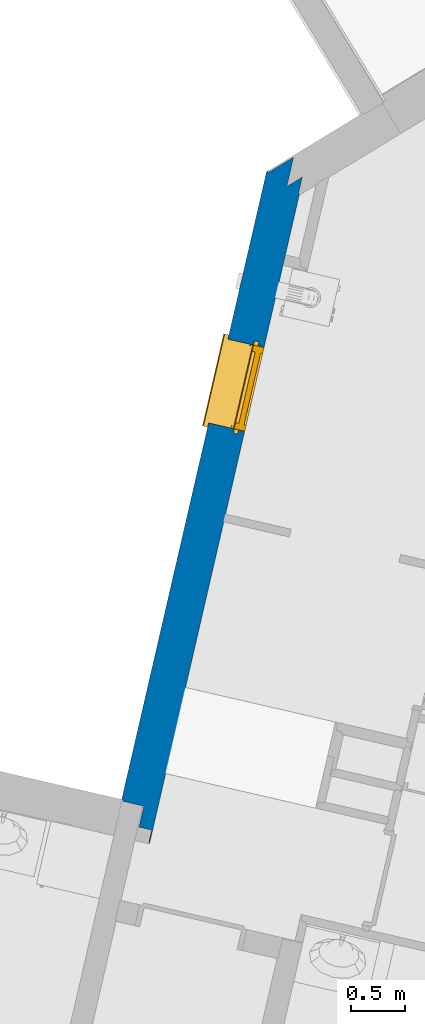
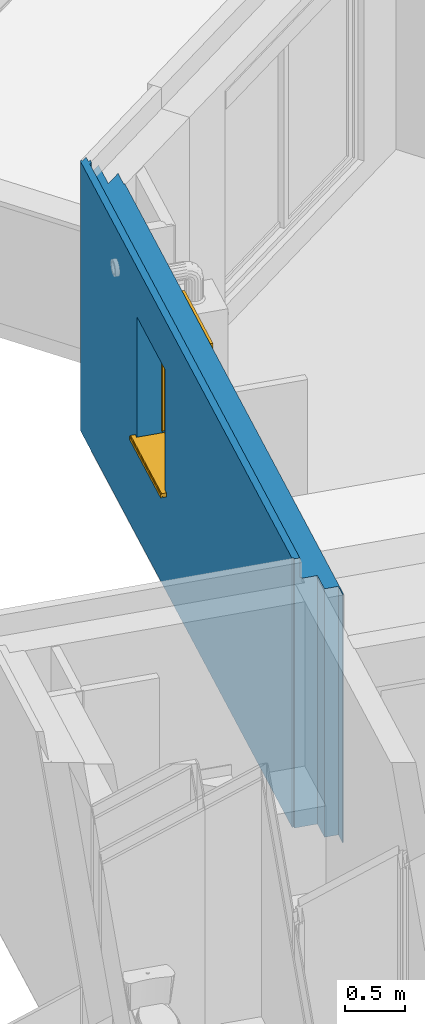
# One storey, part 30 of 91: 1 wall, 1 window, 1 opening.
"""IFC2X3 building model written with IfcOpenShell, lengths in metres."""

from ifc_helpers import new_model, entity, si_unit, converted_unit, derived_unit, money_unit, direction, frame, origin_with_axes, place, context, subcontext, project, spatial, open_shell, faceted_brep, surface_model, source, transform, mapped, material, material_list, type_object, element, fill, save


model = new_model("IFC2X3")

# Units and contexts
model_context = context("Model", 3, precision=1e-05, world=origin_with_axes(), true_north=direction((0.0, 1.0)))
body_context = subcontext(model_context, "Body", "Model", "MODEL_VIEW")
ifc_project = project(units=[si_unit("LENGTHUNIT", "METRE"), si_unit("AREAUNIT", "SQUARE_METRE"), si_unit("VOLUMEUNIT", "CUBIC_METRE"), converted_unit("PLANEANGLEUNIT", "DEGREE", entity("IfcPlaneAngleMeasure", 0.0174532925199), si_unit("PLANEANGLEUNIT", "RADIAN"), dimensions=[0, 0, 0, 0, 0, 0, 0]), si_unit("SOLIDANGLEUNIT", "STERADIAN"), money_unit("EUR"), converted_unit("TIMEUNIT", "Year", entity("IfcTimeMeasure", 31556926.0), si_unit("TIMEUNIT", "SECOND"), dimensions=[0, 0, 1, 0, 0, 0, 0]), si_unit("MASSUNIT", "GRAM", prefix="KILO"), si_unit("THERMODYNAMICTEMPERATUREUNIT", "DEGREE_CELSIUS"), si_unit("LUMINOUSINTENSITYUNIT", "LUMEN"), si_unit("ENERGYUNIT", "JOULE", prefix="MEGA"), derived_unit("THERMALCONDUCTANCEUNIT", [(si_unit("POWERUNIT", "WATT"), 1), (si_unit("LENGTHUNIT", "METRE"), -1), (si_unit("THERMODYNAMICTEMPERATUREUNIT", "KELVIN"), -1)]), derived_unit("SPECIFICHEATCAPACITYUNIT", [(si_unit("ENERGYUNIT", "JOULE"), 1), (si_unit("MASSUNIT", "GRAM", prefix="KILO"), -1), (si_unit("THERMODYNAMICTEMPERATUREUNIT", "KELVIN"), -1)]), derived_unit("MASSDENSITYUNIT", [(si_unit("MASSUNIT", "GRAM", prefix="KILO"), 1), (si_unit("VOLUMEUNIT", "CUBIC_METRE"), -1)])], contexts=[model_context])

# Site, building, storey
site_placement = place(None, origin_with_axes())
site = spatial("IfcSite", under=ifc_project, at=site_placement, Name="Site", CompositionType="ELEMENT")
building_placement = place(site_placement, origin_with_axes())
building = spatial("IfcBuilding", under=site, at=building_placement, Name="Bâtiment", CompositionType="ELEMENT")
storey_placement = place(building_placement, frame((0.0, 0.0, 5.44), z_axis=(0.0, 0.0, 1.0), x_axis=(1.0, 0.0, 0.0)))
storey = spatial("IfcBuildingStorey", under=building, at=storey_placement, Name="R+2", CompositionType="ELEMENT", Elevation=5.44)

# Wall, opening, window
ifc_material_1 = material(Name="Finition int - Plaque de plâtre")
ifc_material_2 = material(Name="Isolation - Polystyrène extrudé")
ifc_material_3 = material(Name="Bloc ELITHERM")
ifc_material_4 = material(Name="Isolation - Polystyrène expansé")
ifc_material_5 = material(Name="Mortier")
ifc_material_6 = material(Name="Béton cellulaire")
ifc_material_7 = material(Name="Finition ext - Crépis")
ifc_material_list = material_list([ifc_material_1, ifc_material_2, ifc_material_3, ifc_material_4, ifc_material_5, ifc_material_6, ifc_material_7])
wall_type = type_object("IfcWallType", Name="Mur ALKERN + planelle 21 345 x 2720", PredefinedType="USERDEFINED")
wall_placement = place(storey_placement, frame((-6.85053797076, 17.6412974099, 0.0), z_axis=(0.0, 0.0, 1.0), x_axis=(-0.22487619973, -0.974387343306, 0.0)))
wall = element("IfcWall", 1, at=wall_placement, inside=storey, type_object=wall_type, material=ifc_material_list, Name="Mue bloc ALKERN isolé", ObjectType="SOLIDWALL", context=body_context, shape_type="Brep", body=[
    faceted_brep([(0.131456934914, 0.34499998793, 2.51), (6.32564186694, 0.34499998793, 2.51), (6.32564186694, 0.34499998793, 0.0), (0.131456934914, 0.34499998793, 0.0), (4.84260207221, 0.34499998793, 2.5), (4.84260207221, 0.34499998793, 2.2), (5.66460207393, 0.34499998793, 2.2), (5.66460207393, 0.34499998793, 2.5), (2.39770804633, 0.34499998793, 2.22), (2.39770804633, 0.34499998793, 2.4), (1.59770804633, 0.34499998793, 2.4), (1.59770804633, 0.34499998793, 2.22), (1.59770804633, 0.34499998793, 1.02), (2.39770804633, 0.34499998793, 1.02), (0.141210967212, 0.335000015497, 2.51), (6.32564186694, 0.335000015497, 2.51), (6.32564186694, 0.335000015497, 0.0), (0.141210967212, 0.335000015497, 0.0), (4.84260207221, 0.340000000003, 2.5), (4.84260207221, 0.340000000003, 2.2), (5.66460207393, 0.339999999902, 2.2), (5.66460207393, 0.339999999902, 2.5), (2.39770804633, 0.335000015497, 2.22), (2.39770804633, 0.335000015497, 2.4), (2.39770804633, 0.335000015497, 1.02), (1.59770804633, 0.335000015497, 2.4), (1.59770804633, 0.335000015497, 2.22), (1.59770804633, 0.335000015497, 1.02)], [[[0, 1, 2, 3], [4, 5, 6, 7], [8, 9, 10, 11, 12, 13]], [[14, 15, 1, 0]], [[1, 15, 16, 2]], [[3, 2, 16, 17]], [[0, 3, 17, 14]], [[18, 19, 5, 4]], [[19, 20, 6, 5]], [[20, 21, 7, 6]], [[21, 18, 4, 7]], [[22, 23, 9, 8, 13, 24]], [[10, 9, 23, 25]], [[11, 10, 25, 26, 27, 12]], [[12, 27, 24, 13]], [[17, 16, 15, 14], [23, 22, 24, 27, 26, 25]], [[21, 20, 19, 18]]]),
    faceted_brep([(1.59770804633, 0.215000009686, 1.02), (1.59770804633, 0.215000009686, 0.96), (1.59770804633, 0.286, 0.96), (1.59770804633, 0.286, 1.02), (1.59770804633, 0.335000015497, 1.02), (1.59770804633, 0.335000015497, 2.22), (1.59770804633, 0.335000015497, 2.4), (1.59770804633, 0.215, 2.4), (1.59770804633, 0.215, 2.22), (6.2056418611, 0.215000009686, 2.51), (0.0906279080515, 0.215000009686, 2.50999999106), (0.0906279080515, 0.215000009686, 0.0), (6.2056418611, 0.215000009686, 0.0), (2.39770804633, 0.215, 2.4), (2.39770804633, 0.215, 2.22), (2.39770804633, 0.215000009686, 1.02), (2.39770804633, 0.215000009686, 0.96), (2.39770804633, 0.286, 0.96), (2.39770804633, 0.286, 1.02), (2.39770804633, 0.335000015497, 1.02), (6.20564186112, 0.335000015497, 0.0), (-0.0264208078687, 0.335000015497, 0.0), (-0.0264208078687, 0.335000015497, 2.50999999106), (6.20564186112, 0.335000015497, 2.51), (2.39770804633, 0.335000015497, 2.22), (2.39770804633, 0.335000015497, 2.4)], [[[0, 1, 2, 3, 4, 5, 6, 7, 8]], [[9, 10, 11, 12], [1, 0, 8, 7, 13, 14, 15, 16]], [[1, 16, 17, 2]], [[18, 3, 2, 17]], [[3, 18, 19, 4]], [[20, 21, 22, 23], [5, 4, 19, 24, 25, 6]], [[25, 13, 7, 6]], [[23, 22, 10, 9]], [[11, 10, 22, 21]], [[12, 11, 21, 20]], [[12, 20, 23, 9]], [[18, 17, 16, 15, 14, 13, 25, 24, 19]]]),
    faceted_brep([(1.59770804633, 0.015, 1.02), (1.59770804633, 0.015, 0.96), (1.59770804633, 0.214999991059, 0.96), (1.59770804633, 0.214999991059, 1.02), (1.59770804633, 0.214999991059, 2.22), (1.59770804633, 0.015, 2.22), (6.00564185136, 0.015, 0.0), (6.00564185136, 0.015, 2.50999999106), (0.00632286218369, 0.015, 2.50999999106), (0.00632286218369, 0.015, 0.0), (2.39770804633, 0.015, 2.22), (2.39770804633, 0.015, 1.02), (2.39770804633, 0.015, 0.96), (2.39770804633, 0.214999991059, 0.96), (6.00564185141, 0.214999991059, 2.50999999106), (6.00564185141, 0.214999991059, 0.0), (-0.188758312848, 0.214999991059, 0.0), (-0.188758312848, 0.214999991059, 2.50999999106), (2.39770804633, 0.214999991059, 1.02), (2.39770804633, 0.214999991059, 2.22), (6.00564185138, 0.0829999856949, 2.50999999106), (-0.0600047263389, 0.0829999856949, 2.50999999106)], [[[0, 1, 2, 3, 4, 5]], [[6, 7, 8, 9], [1, 0, 5, 10, 11, 12]], [[13, 2, 1, 12]], [[14, 15, 16, 17], [13, 18, 19, 4, 3, 2]], [[19, 10, 5, 4]], [[6, 15, 14, 20, 7]], [[7, 20, 21, 8]], [[8, 21, 17, 16, 9]], [[15, 6, 9, 16]], [[18, 13, 12, 11, 10, 19]], [[20, 14, 17, 21]]]),
    faceted_brep([(0.0616375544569, 0.0629999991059, 2.72), (0.042129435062, 0.083000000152, 2.72), (0.00704797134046, 0.083000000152, 2.72), (0.0265560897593, 0.0630000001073, 2.72), (0.0421294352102, 0.083, 2.51999999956), (0.0616375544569, 0.0629999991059, 2.51999999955), (0.00704797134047, 0.083000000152, 2.51999999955), (0.0265560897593, 0.0630000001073, 2.51999999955)], [[[0, 1, 2, 3]], [[4, 1, 0, 5]], [[1, 4, 6, 2]], [[7, 3, 2, 6]], [[5, 0, 3, 7]], [[4, 5, 7, 6]]]),
    faceted_brep([(-0.0600047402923, 0.083, 2.50999999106), (-0.0600047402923, 0.083, 2.51999999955), (6.00564185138, 0.083, 2.52), (6.00564185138, 0.083, 2.51), (0.00632286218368, 0.015, 2.51999999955), (0.00632286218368, 0.015, 2.50999999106), (6.00564185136, 0.015, 2.52), (6.00564185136, 0.015, 2.51)], [[[0, 1, 2, 3]], [[4, 1, 0, 5]], [[1, 4, 6, 2]], [[3, 2, 6, 7]], [[5, 0, 3, 7]], [[4, 5, 7, 6]]]),
    faceted_brep([(-0.0404966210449, 0.0629999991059, 2.51999999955), (-0.0404966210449, 0.0629999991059, 2.72), (6.00564185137, 0.0629999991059, 2.72), (6.00564185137, 0.0629999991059, 2.51999999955), (0.00632286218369, 0.015, 2.72), (0.00632286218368, 0.015, 2.51999999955), (6.00564185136, 0.015, 2.72), (6.00564185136, 0.015, 2.51999999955)], [[[0, 1, 2, 3]], [[4, 1, 0, 5]], [[1, 4, 6, 2]], [[3, 2, 6, 7]], [[5, 0, 3, 7]], [[4, 5, 7, 6]]]),
    faceted_brep([(1.59770804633, 0.0, 1.02), (1.59770804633, 0.0149999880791, 1.02), (1.59770804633, 0.0149999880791, 2.22), (1.59770804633, 0.0, 2.22), (1.59770804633, 0.0149999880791, 0.96), (1.59770804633, 0.0, 0.96), (5.99064185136, 0.0149999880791, 0.0), (-0.014631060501, 0.0149999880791, 0.0), (-0.014631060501, 0.0149999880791, 2.72), (5.99064185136, 0.0149999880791, 2.72), (2.39770804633, 0.0149999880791, 0.96), (2.39770804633, 0.0149999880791, 1.02), (2.39770804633, 0.0149999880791, 2.22), (2.39770804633, 0.0, 2.22), (1.66527378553e-08, 0.0, 2.72), (1.66527378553e-08, 0.0, 0.0), (5.99064185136, 0.0, 0.0), (5.99064185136, 0.0, 2.72), (2.39770804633, 0.0, 1.02), (2.39770804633, 0.0, 0.96)], [[[0, 1, 2, 3]], [[4, 1, 0, 5]], [[6, 7, 8, 9], [10, 11, 12, 2, 1, 4]], [[12, 13, 3, 2]], [[14, 15, 16, 17], [5, 0, 3, 13, 18, 19]], [[10, 4, 5, 19]], [[16, 15, 7, 6]], [[14, 8, 7, 15]], [[9, 8, 14, 17]], [[17, 16, 6, 9]], [[18, 11, 10, 19]], [[11, 18, 13, 12]]]),
])
opening_placement = place(wall_placement, frame((1.99770804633, 0.0, 1.02), z_axis=(0.0, 0.0, 1.0), x_axis=(1.0, 0.0, 0.0)))
opening = element("IfcOpeningElement", 2, at=opening_placement, cuts=wall, Name="MEN 73", context=body_context, shape_type="Brep", body=[
    faceted_brep([(-0.4, 0.83499998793, 0.0), (0.4, 0.83499998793, 0.0), (0.4, 0.245, 0.0), (-0.4, 0.245, 0.0), (-0.4, 0.83499998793, 1.2), (0.4, 0.83499998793, 1.2), (0.4, 0.245, 1.2), (-0.4, 0.245, 1.2)], [[[0, 1, 2, 3]], [[0, 4, 5, 1]], [[1, 5, 6, 2]], [[3, 2, 6, 7]], [[4, 0, 3, 7]], [[5, 4, 7, 6]]]),
    faceted_brep([(-0.4, -0.34499998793, 0.0), (-0.4, -0.34499998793, 1.2), (-0.4, 0.245, 1.2), (-0.4, 0.245, 0.0), (0.4, -0.34499998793, 0.0), (0.4, -0.34499998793, 1.2), (0.4, 0.245, 1.2), (0.4, 0.245, 0.0)], [[[0, 1, 2, 3]], [[0, 4, 5, 1]], [[1, 5, 6, 2]], [[3, 2, 6, 7]], [[4, 0, 3, 7]], [[5, 4, 7, 6]]]),
    faceted_brep([(-0.4, -0.34499998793, 0.0), (-0.4, -0.34499998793, 1.2), (-0.4, 0.245, 1.2), (-0.4, 0.245, 0.0), (0.4, -0.34499998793, 0.0), (0.4, -0.34499998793, 1.2), (0.4, 0.245, 1.2), (0.4, 0.245, 0.0)], [[[0, 1, 2, 3]], [[0, 4, 5, 1]], [[1, 5, 6, 2]], [[3, 2, 6, 7]], [[4, 0, 3, 7]], [[5, 4, 7, 6]]]),
    faceted_brep([(-0.4, 0.80499998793, 1.2), (0.4, 0.80499998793, 1.2), (0.4, 0.215, 1.2), (-0.4, 0.215, 1.2), (-0.4, 0.80499998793, 1.38), (0.4, 0.80499998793, 1.38), (0.4, 0.215, 1.38), (-0.4, 0.215, 1.38)], [[[0, 1, 2, 3]], [[0, 4, 5, 1]], [[1, 5, 6, 2]], [[3, 2, 6, 7]], [[4, 0, 3, 7]], [[5, 4, 7, 6]]]),
    faceted_brep([(-0.4, -0.30399998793, 0.0), (0.4, -0.30399998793, 0.0), (0.4, 0.286, 0.0), (-0.4, 0.286, 0.0), (-0.4, -0.30399998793, -0.06), (0.4, -0.30399998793, -0.06), (0.4, 0.286, -0.06), (-0.4, 0.286, -0.06)], [[[0, 1, 2, 3]], [[0, 4, 5, 1]], [[1, 5, 6, 2]], [[3, 2, 6, 7]], [[4, 0, 3, 7]], [[5, 4, 7, 6]]]),
])
window_style = type_object("IfcWindowStyle", Name="Baie générique 2017 v2", ConstructionType="NOTDEFINED", OperationType="NOTDEFINED", ParameterTakesPrecedence=False, Sizeable=False)
shared_shape = source(origin_with_axes(), body_context, "Body", "SurfaceModel", [
    faceted_brep([(-0.4, 0.1, 0.0), (0.4, 0.1, 0.0), (0.4, 0.0, 0.0), (-0.4, 0.0, 0.0), (-0.4, 0.1, 1.2), (0.4, 0.1, 1.2), (-0.34, 0.1, 0.05), (0.34, 0.1, 0.05), (0.34, 0.1, 1.15), (-0.34, 0.1, 1.15), (0.4, 0.0, 1.2), (-0.4, 0.0, 1.2), (-0.34, 0.0, 0.05), (-0.34, 0.0, 1.15), (0.34, 0.0, 1.15), (0.34, 0.0, 0.05)], [[[0, 1, 2, 3]], [[0, 4, 5, 1], [6, 7, 8, 9]], [[1, 5, 10, 2]], [[3, 2, 10, 11], [12, 13, 14, 15]], [[4, 0, 3, 11]], [[5, 4, 11, 10]], [[7, 6, 12, 15]], [[8, 7, 15, 14]], [[9, 8, 14, 13]], [[6, 9, 13, 12]]]),
    faceted_brep([(0.34, 0.08, 1.15), (0.34, 0.08, 0.05), (-0.34, 0.08, 0.05), (-0.34, 0.08, 1.15), (0.27, 0.08, 1.08), (-0.27, 0.08, 1.08), (-0.27, 0.08, 0.1), (0.27, 0.08, 0.1), (0.34, 0.03, 1.15), (0.34, 0.03, 0.05), (-0.34, 0.03, 0.05), (-0.34, 0.03, 1.15), (0.27, 0.03, 1.08), (-0.27, 0.03, 1.08), (-0.27, 0.03, 0.1), (0.27, 0.03, 0.1)], [[[0, 1, 2, 3], [4, 5, 6, 7]], [[1, 0, 8, 9]], [[10, 2, 1, 9]], [[11, 3, 2, 10]], [[0, 3, 11, 8]], [[5, 4, 12, 13]], [[14, 6, 5, 13]], [[15, 7, 6, 14]], [[4, 7, 15, 12]], [[11, 10, 9, 8], [15, 14, 13, 12]]]),
    surface_model("IfcShellBasedSurfaceModel", [(-0.34, 0.08, 0.05), (-0.34, 0.055, 0.05), (-0.34, 0.055, 1.15), (-0.34, 0.08, 1.15)], [open_shell([[[0, 1, 2, 3]]])]),
    surface_model("IfcShellBasedSurfaceModel", [(0.34, 0.08, 0.05), (0.34, 0.055, 0.05), (0.34, 0.055, 1.15), (0.34, 0.08, 1.15)], [open_shell([[[0, 1, 2, 3]]])]),
    surface_model("IfcShellBasedSurfaceModel", [(-0.34, 0.08, 0.05), (-0.34, 0.055, 0.05), (0.34, 0.055, 0.05), (0.34, 0.08, 0.05)], [open_shell([[[0, 1, 2, 3]]])]),
    surface_model("IfcShellBasedSurfaceModel", [(-0.34, 0.08, 1.15), (-0.34, 0.055, 1.15), (0.34, 0.055, 1.15), (0.34, 0.08, 1.15)], [open_shell([[[0, 1, 2, 3]]])]),
    surface_model("IfcShellBasedSurfaceModel", [(-0.34, 0.055, 0.05), (-0.34, 0.03, 0.05), (-0.34, 0.03, 1.15), (-0.34, 0.055, 1.15)], [open_shell([[[0, 1, 2, 3]]])]),
    surface_model("IfcShellBasedSurfaceModel", [(0.34, 0.055, 0.05), (0.34, 0.03, 0.05), (0.34, 0.03, 1.15), (0.34, 0.055, 1.15)], [open_shell([[[0, 1, 2, 3]]])]),
    surface_model("IfcShellBasedSurfaceModel", [(-0.34, 0.055, 0.05), (-0.34, 0.03, 0.05), (0.34, 0.03, 0.05), (0.34, 0.055, 0.05)], [open_shell([[[0, 1, 2, 3]]])]),
    surface_model("IfcShellBasedSurfaceModel", [(-0.34, 0.055, 1.15), (-0.34, 0.03, 1.15), (0.34, 0.03, 1.15), (0.34, 0.055, 1.15)], [open_shell([[[0, 1, 2, 3]]])]),
    faceted_brep([(-0.27, 0.0575, 0.1), (0.27, 0.0575, 0.1), (0.27, 0.0525, 0.1), (-0.27, 0.0525, 0.1), (-0.27, 0.0575, 1.08), (0.27, 0.0575, 1.08), (0.27, 0.0525, 1.08), (-0.27, 0.0525, 1.08)], [[[0, 1, 2, 3]], [[0, 4, 5, 1]], [[1, 5, 6, 2]], [[3, 2, 6, 7]], [[4, 0, 3, 7]], [[5, 4, 7, 6]]]),
    faceted_brep([(-0.4, -0.03, 0.0), (-0.375, -0.03, 0.0), (-0.375, -0.03, 1.2), (-0.4, -0.03, 1.2), (-0.4, -0.002, 0.0), (-0.375, -0.002, 0.0), (-0.375, -0.004, 0.0), (-0.398, -0.004, 0.0), (-0.398, -0.028, 0.0), (-0.375, -0.028, 0.0), (-0.375, -0.028, 1.2), (-0.398, -0.028, 1.2), (-0.398, -0.004, 1.2), (-0.375, -0.004, 1.2), (-0.375, -0.002, 1.2), (-0.4, -0.002, 1.2)], [[[0, 1, 2, 3]], [[0, 4, 5, 6, 7, 8, 9, 1]], [[1, 9, 10, 2]], [[3, 2, 10, 11, 12, 13, 14, 15]], [[4, 0, 3, 15]], [[5, 4, 15, 14]], [[6, 5, 14, 13]], [[7, 6, 13, 12]], [[8, 7, 12, 11]], [[9, 8, 11, 10]]]),
    faceted_brep([(0.4, -0.03, 0.0), (0.4, -0.03, 1.2), (0.375, -0.03, 1.2), (0.375, -0.03, 0.0), (0.4, -0.002, 0.0), (0.4, -0.002, 1.2), (0.375, -0.002, 1.2), (0.375, -0.004, 1.2), (0.398, -0.004, 1.2), (0.398, -0.028, 1.2), (0.375, -0.028, 1.2), (0.375, -0.028, 0.0), (0.398, -0.028, 0.0), (0.398, -0.004, 0.0), (0.375, -0.004, 0.0), (0.375, -0.002, 0.0)], [[[0, 1, 2, 3]], [[4, 5, 1, 0]], [[1, 5, 6, 7, 8, 9, 10, 2]], [[3, 2, 10, 11]], [[0, 3, 11, 12, 13, 14, 15, 4]], [[15, 6, 5, 4]], [[14, 7, 6, 15]], [[13, 8, 7, 14]], [[12, 9, 8, 13]], [[11, 10, 9, 12]]]),
    faceted_brep([(0.398, -0.028, 1.2), (-0.398, -0.028, 1.2), (-0.398, -0.028, 1.378), (0.398, -0.028, 1.378), (0.398, -0.03, 1.2), (-0.398, -0.03, 1.2), (-0.398, -0.03, 1.38), (-0.398, 0.17, 1.38), (-0.398, 0.17, 1.2), (-0.398, 0.168, 1.2), (-0.398, 0.168, 1.378), (0.398, 0.168, 1.378), (0.398, 0.168, 1.2), (0.398, 0.17, 1.2), (0.398, 0.17, 1.38), (0.398, -0.03, 1.38)], [[[0, 1, 2, 3]], [[4, 5, 1, 0]], [[1, 5, 6, 7, 8, 9, 10, 2]], [[3, 2, 10, 11]], [[0, 3, 11, 12, 13, 14, 15, 4]], [[15, 6, 5, 4]], [[14, 7, 6, 15]], [[13, 8, 7, 14]], [[12, 9, 8, 13]], [[11, 10, 9, 12]]]),
    faceted_brep([(0.398, 0.0724697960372, 1.27436337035), (0.398, 0.08, 1.29), (0.398, 0.0724697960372, 1.30563662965), (0.398, 0.0555495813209, 1.30949855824), (0.398, 0.041980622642, 1.29867767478), (0.398, 0.041980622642, 1.28132232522), (0.398, 0.0555495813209, 1.27050144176), (-0.398, 0.0724697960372, 1.27436337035), (-0.398, 0.08, 1.29), (-0.398, 0.0724697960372, 1.30563662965), (-0.398, 0.0555495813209, 1.30949855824), (-0.398, 0.041980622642, 1.29867767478), (-0.398, 0.041980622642, 1.28132232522), (-0.398, 0.0555495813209, 1.27050144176)], [[[0, 1, 2, 3, 4, 5, 6]], [[0, 7, 8, 1]], [[1, 8, 9, 2]], [[2, 9, 10, 3]], [[3, 10, 11, 4]], [[4, 11, 12, 5]], [[5, 12, 13, 6]], [[6, 13, 7, 0]], [[7, 13, 12, 11, 10, 9, 8]]]),
    faceted_brep([(0.388, 0.130275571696, 1.25615706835), (0.388, 0.138, 1.29), (0.388, 0.130275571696, 1.32384293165), (0.388, 0.108632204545, 1.35098285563), (0.388, 0.0773566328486, 1.36604437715), (0.388, 0.0426433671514, 1.36604437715), (0.388, 0.011367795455, 1.35098285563), (0.388, -0.0102755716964, 1.32384293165), (0.388, -0.018, 1.29), (0.388, -0.0102755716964, 1.25615706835), (0.388, 0.011367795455, 1.22901714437), (0.388, 0.0426433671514, 1.21395562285), (0.388, 0.0773566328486, 1.21395562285), (0.388, 0.108632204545, 1.22901714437), (-0.388, 0.130275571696, 1.25615706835), (-0.388, 0.138, 1.29), (-0.388, 0.130275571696, 1.32384293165), (-0.388, 0.108632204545, 1.35098285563), (-0.388, 0.0773566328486, 1.36604437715), (-0.388, 0.0426433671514, 1.36604437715), (-0.388, 0.011367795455, 1.35098285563), (-0.388, -0.0102755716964, 1.32384293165), (-0.388, -0.018, 1.29), (-0.388, -0.0102755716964, 1.25615706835), (-0.388, 0.011367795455, 1.22901714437), (-0.388, 0.0426433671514, 1.21395562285), (-0.388, 0.0773566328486, 1.21395562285), (-0.388, 0.108632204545, 1.22901714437)], [[[0, 1, 2, 3, 4, 5, 6, 7, 8, 9, 10, 11, 12, 13]], [[0, 14, 15, 1]], [[1, 15, 16, 2]], [[2, 16, 17, 3]], [[3, 17, 18, 4]], [[4, 18, 19, 5]], [[5, 19, 20, 6]], [[6, 20, 21, 7]], [[7, 21, 22, 8]], [[8, 22, 23, 9]], [[9, 23, 24, 10]], [[10, 24, 25, 11]], [[11, 25, 26, 12]], [[12, 26, 27, 13]], [[13, 27, 14, 0]], [[14, 27, 26, 25, 24, 23, 22, 21, 20, 19, 18, 17, 16, 15]]]),
    faceted_brep([(0.4, 0.17, 1.2), (0.398, 0.17, 1.2), (0.398, 0.17, 1.38), (0.4, 0.17, 1.38), (0.4, -0.03, 1.2), (0.398, -0.03, 1.2), (0.398, -0.03, 1.38), (0.4, -0.03, 1.38)], [[[0, 1, 2, 3]], [[4, 5, 1, 0]], [[1, 5, 6, 2]], [[3, 2, 6, 7]], [[0, 3, 7, 4]], [[7, 6, 5, 4]]]),
    faceted_brep([(-0.398, 0.17, 1.2), (-0.4, 0.17, 1.2), (-0.4, 0.17, 1.38), (-0.398, 0.17, 1.38), (-0.398, -0.03, 1.2), (-0.4, -0.03, 1.2), (-0.4, -0.03, 1.38), (-0.398, -0.03, 1.38)], [[[0, 1, 2, 3]], [[4, 5, 1, 0]], [[1, 5, 6, 2]], [[3, 2, 6, 7]], [[0, 3, 7, 4]], [[7, 6, 5, 4]]]),
    faceted_brep([(0.398, -0.004, 1.2), (-0.398, -0.004, 1.2), (-0.398, 0.168, 1.2), (0.398, 0.168, 1.2), (0.398, -0.004, 1.202), (-0.398, -0.004, 1.202), (-0.398, 0.168, 1.202), (0.398, 0.168, 1.202)], [[[0, 1, 2, 3]], [[4, 5, 1, 0]], [[1, 5, 6, 2]], [[3, 2, 6, 7]], [[0, 3, 7, 4]], [[7, 6, 5, 4]]]),
    faceted_brep([(-0.388, -0.006, 1.2), (-0.388, -0.006, 1.29), (0.388, -0.006, 1.29), (0.388, -0.006, 1.2), (-0.388, -0.026, 1.2), (-0.388, -0.026, 1.29), (0.388, -0.026, 1.29), (0.388, -0.026, 1.2)], [[[0, 1, 2, 3]], [[1, 0, 4, 5]], [[2, 1, 5, 6]], [[3, 2, 6, 7]], [[4, 0, 3, 7]], [[5, 4, 7, 6]]]),
    faceted_brep([(0.4, -0.00167949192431, -0.01), (0.4, 0.0, -0.00373205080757), (0.44, 0.0, -0.00373205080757), (0.44, 0.001, 0.0), (-0.44, 0.001, 0.0), (-0.44, 0.0, -0.00373205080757), (-0.4, 0.0, -0.00373205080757), (-0.4, -0.00167949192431, -0.01), (0.4, -0.009, -0.0173205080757), (0.4, -0.019, -0.02), (0.4, -0.245, -0.02), (0.4, -0.245, -0.06), (0.4, 0.0, -0.06), (0.44, 0.0, -0.06), (0.44, 0.041, -0.06), (0.44, 0.041, 0.0), (-0.44, 0.041, 0.0), (-0.44, 0.041, -0.06), (-0.44, 0.0, -0.06), (-0.4, 0.0, -0.06), (-0.4, -0.245, -0.02), (-0.4, -0.019, -0.02), (-0.4, -0.009, -0.0173205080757), (-0.4, -0.245, -0.06), (-0.44, -0.245, -0.02), (-0.44, -0.285, -0.02), (0.44, -0.285, -0.02), (0.44, -0.245, -0.02), (0.44, -0.245, -0.06), (0.44, -0.275, -0.06), (-0.44, -0.275, -0.06), (-0.44, -0.245, -0.06), (-0.44, -0.295, -0.03), (-0.44, -0.292071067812, -0.0229289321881), (-0.44, -0.275, -0.05), (-0.44, -0.285, -0.05), (-0.44, -0.285, -0.06), (-0.44, -0.295, -0.06), (0.44, -0.292071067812, -0.0229289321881), (0.44, -0.295, -0.03), (0.44, -0.295, -0.06), (0.44, -0.285, -0.06), (0.44, -0.285, -0.05), (0.44, -0.275, -0.05)], [[[0, 1, 2, 3, 4, 5, 6, 7]], [[1, 0, 8, 9, 10, 11, 12]], [[13, 2, 1, 12]], [[2, 13, 14, 15, 3]], [[16, 4, 3, 15]], [[4, 16, 17, 18, 5]], [[5, 18, 19, 6]], [[20, 21, 22, 7, 6, 19, 23]], [[8, 0, 7, 22]], [[9, 8, 22, 21]], [[10, 9, 21, 20, 24, 25, 26, 27]], [[10, 27, 28, 11]], [[11, 28, 29, 30, 31, 23, 19, 18, 17, 14, 13, 12]], [[17, 16, 15, 14]], [[20, 23, 31, 24]], [[32, 33, 25, 24, 31, 30, 34, 35, 36, 37]], [[25, 33, 38, 26]], [[28, 27, 26, 38, 39, 40, 41, 42, 43, 29]], [[34, 30, 29, 43]], [[33, 32, 39, 38]], [[35, 34, 43, 42]], [[36, 35, 42, 41]], [[37, 36, 41, 40]], [[32, 37, 40, 39]]]),
])
window_placement = place(opening_placement, frame((-0.4, 0.0, 0.0), z_axis=(0.0, 0.0, 1.0), x_axis=(1.0, 0.0, 0.0)))
window = element("IfcWindow", 3, at=window_placement, inside=storey, type_object=window_style, Name="MEN 73", ObjectType="WINDOW", OverallHeight=1.2, OverallWidth=0.8, context=body_context, shape_type="MappedRepresentation", body=[
    mapped(shared_shape, transform((0.4, 0.245, 0.0))),
])
fill(opening, window)

save(model, "model.ifc")
